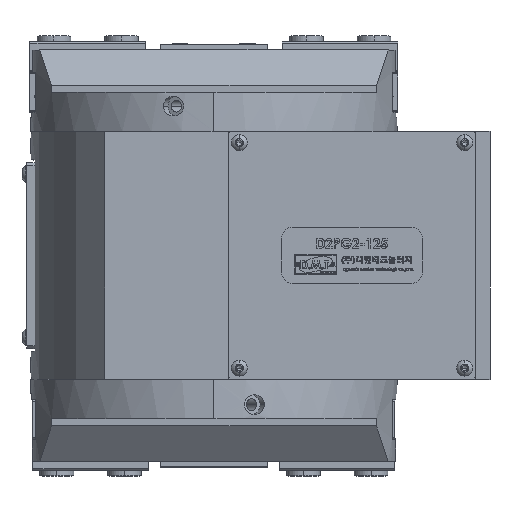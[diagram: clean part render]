
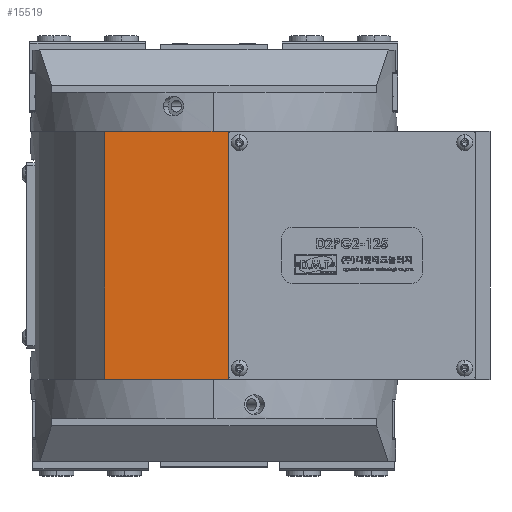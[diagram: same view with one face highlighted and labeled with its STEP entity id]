
A CAD part, top view. The second image highlights one B-rep face of the part: STEP entity #15519.
In plain terms, the highlighted planar face has unit normal (0, 0, 1).
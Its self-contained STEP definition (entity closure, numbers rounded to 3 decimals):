
#1078 = CARTESIAN_POINT ( 'NONE',  ( -38.782, -44., 67.5 ) ) ;
#1083 = DIRECTION ( 'NONE',  ( 1., 0., 0. ) ) ;
#1188 = CARTESIAN_POINT ( 'NONE',  ( -38.782, 44., 67.5 ) ) ;
#1189 = DIRECTION ( 'NONE',  ( 0., -1., 0. ) ) ;
#1194 = CARTESIAN_POINT ( 'NONE',  ( -38.782, 44., 67.5 ) ) ;
#1196 = DIRECTION ( 'NONE',  ( 1., 0., 0. ) ) ;
#1197 = CARTESIAN_POINT ( 'NONE',  ( 5., 44., 67.5 ) ) ;
#1198 = DIRECTION ( 'NONE',  ( 0., -1., 0. ) ) ;
#10921 = CARTESIAN_POINT ( 'NONE',  ( -38.782, 44., 67.5 ) ) ;
#10923 = PLANE ( 'NONE',  #12684 ) ;
#10928 = DIRECTION ( 'NONE',  ( 0., 0., -1. ) ) ;
#10930 = DIRECTION ( 'NONE',  ( -1., 0., 0. ) ) ;
#12684 = AXIS2_PLACEMENT_3D ( 'NONE', #10921, #10928, #10930 ) ;
#12951 = FACE_OUTER_BOUND ( 'NONE', #16762, .T. ) ;
#14399 = EDGE_CURVE ( 'NONE', #80685, #80676, #78356, .T. ) ;
#14442 = EDGE_CURVE ( 'NONE', #80702, #80685, #78416, .T. ) ;
#14446 = EDGE_CURVE ( 'NONE', #80702, #80688, #78392, .T. ) ;
#14448 = EDGE_CURVE ( 'NONE', #80688, #80676, #78437, .T. ) ;
#15519 = ADVANCED_FACE ( 'NONE', ( #12951 ), #10923, .F. ) ;
#16762 = EDGE_LOOP ( 'NONE', ( #18562, #18564, #18566, #18568 ) ) ;
#18562 = ORIENTED_EDGE ( 'NONE', *, *, #14442, .T. ) ;
#18564 = ORIENTED_EDGE ( 'NONE', *, *, #14399, .T. ) ;
#18566 = ORIENTED_EDGE ( 'NONE', *, *, #14448, .F. ) ;
#18568 = ORIENTED_EDGE ( 'NONE', *, *, #14446, .F. ) ;
#70586 = CARTESIAN_POINT ( 'NONE',  ( 5., -44., 67.5 ) ) ;
#70590 = CARTESIAN_POINT ( 'NONE',  ( -38.782, -44., 67.5 ) ) ;
#70592 = CARTESIAN_POINT ( 'NONE',  ( 5., 44., 67.5 ) ) ;
#70602 = CARTESIAN_POINT ( 'NONE',  ( -38.782, 44., 67.5 ) ) ;
#78356 = LINE ( 'NONE', #1078, #78370 ) ;
#78370 = VECTOR ( 'NONE', #1083, 1000. ) ;
#78392 = LINE ( 'NONE', #1194, #78426 ) ;
#78416 = LINE ( 'NONE', #1188, #78420 ) ;
#78420 = VECTOR ( 'NONE', #1189, 1000. ) ;
#78426 = VECTOR ( 'NONE', #1196, 1000. ) ;
#78437 = LINE ( 'NONE', #1197, #78438 ) ;
#78438 = VECTOR ( 'NONE', #1198, 1000. ) ;
#80676 = VERTEX_POINT ( 'NONE', #70586 ) ;
#80685 = VERTEX_POINT ( 'NONE', #70590 ) ;
#80688 = VERTEX_POINT ( 'NONE', #70592 ) ;
#80702 = VERTEX_POINT ( 'NONE', #70602 ) ;
